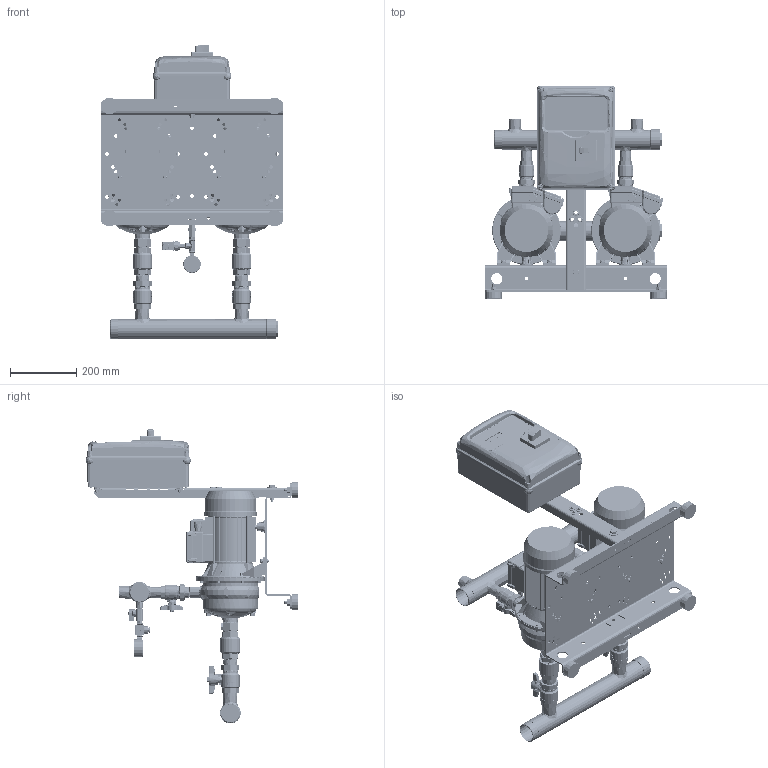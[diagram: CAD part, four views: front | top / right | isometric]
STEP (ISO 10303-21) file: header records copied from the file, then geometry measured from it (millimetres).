
FILE_DESCRIPTION((''),'2;1');
FILE_NAME('2GP_2CDX_120-15M_REV5_ASM','2025-02-04T17:19:50',('Utente'),('"Ebara Pumps Europe S.p.A"'),'CREO PARAMETRIC BY PTC INC, 2022124','CREO PARAMETRIC BY PTC INC, 2022124','');
FILE_SCHEMA(('AUTOMOTIVE_DESIGN { 1 0 10303 214 1 1 1 1 }'));
Products named in the file (39): 62508_275562936; CALOTTA_F_A304_DN50_369800820; VAL_INT_MF-B_OTN_CIM346_DN32; VAL_INT_M-F-3_OTN_CIM346_DN32_ASM; VAL-NR-FF-OTN-CIM30-DN32; VAL_NR_F-F_OTN_CIM30_DN32_ASM; NIPPLO-ALIM_OT_DN32_361910051; TAPPO_M_OT_1-2_380000878; 2CDXM_120_15; EP_2CDXM_120-15_ASM; VAL_INT_MF-B_OTN_CIM346_DN25; VAL_INT_M-F-3_OTN_CIM346_DN25_ASM; RONDEL-P_FE_ZN_UNI6592_M8; DADO_AUTOAGG_M8_ESAG; VITI_TE_ISO4017_M8_L20; 62510_275562942; TAPPO-SALVAFIL_D31; VAL_INT_MF_OTN_CIM012_DN8; NIPPLO_OTG_8_380000861; RACC-T_OTG_DN8_380000880; MAN_RAD_D50_10BAR_361600160; BASE_2GP_I300-B300_DNRV; MONTANTE_H600_271472877; PIEDINO_CIL_369650010; RONDEL-P_FE_ZN_UNI6592_M10; DADI_NORM_ISO4032_FE_ZN_M10; RONDEL-P_ZN_UNI6593_M10X30X2-5; VITI_TE_ISO4017_M10_L45; TRAVERSO_MONT_L200_271472882; RONDEL-P_FE_ZN_UNI6593_M6X18X2; RONDEL-P_FE_ZN_UNI6592_M6; VITI_TE_ISO4017_M6_L20; DADI_NORM_ISO4032_FE_ZN_M6; DADO_AUTOAGG_M10_ESAG; DNRV_2P_I300-B300_H600-Q220X300_ASM; COM_EP-PRO_2M_362334214; PG_PVC_D10-5_380000891; TRASD_16BAR_460500024; 2GP_2CDX_120-15M_REV5_ASM
Assembly tree (83 placements, depth 3):
  2GP_2CDX_120-15M_REV5_ASM
    62508_275562936
    CALOTTA_F_A304_DN50_369800820  x2
    VAL_INT_M-F-3_OTN_CIM346_DN32_ASM  x2
      VAL_INT_MF-B_OTN_CIM346_DN32
    VAL_NR_F-F_OTN_CIM30_DN32_ASM  x2
      VAL-NR-FF-OTN-CIM30-DN32
    NIPPLO-ALIM_OT_DN32_361910051  x2
    TAPPO_M_OT_1-2_380000878  x2
    EP_2CDXM_120-15_ASM  x2
      2CDXM_120_15
    VAL_INT_M-F-3_OTN_CIM346_DN25_ASM  x2
      VAL_INT_MF-B_OTN_CIM346_DN25
    RONDEL-P_FE_ZN_UNI6592_M8  x4
    DADO_AUTOAGG_M8_ESAG  x4
    VITI_TE_ISO4017_M8_L20  x4
    62510_275562942
    TAPPO-SALVAFIL_D31  x2
    VAL_INT_MF_OTN_CIM012_DN8
    NIPPLO_OTG_8_380000861
    RACC-T_OTG_DN8_380000880
    MAN_RAD_D50_10BAR_361600160
    DNRV_2P_I300-B300_H600-Q220X300_ASM
      BASE_2GP_I300-B300_DNRV
      MONTANTE_H600_271472877
      PIEDINO_CIL_369650010  x4
      RONDEL-P_FE_ZN_UNI6592_M10  x4
      DADI_NORM_ISO4032_FE_ZN_M10  x4
      RONDEL-P_ZN_UNI6593_M10X30X2-5
      VITI_TE_ISO4017_M10_L45
      TRAVERSO_MONT_L200_271472882  x2
      RONDEL-P_FE_ZN_UNI6593_M6X18X2  x8
      RONDEL-P_FE_ZN_UNI6592_M6  x4
      VITI_TE_ISO4017_M6_L20  x4
      DADI_NORM_ISO4032_FE_ZN_M6  x4
      DADO_AUTOAGG_M10_ESAG
    COM_EP-PRO_2M_362334214
    PG_PVC_D10-5_380000891  x3
    TRASD_16BAR_460500024
Bounding box: 550 x 644.45 x 893.45 mm (x, y, z)
Volume: 6083905.7 mm3; surface area: 3654101 mm2
Topology: 1351 solids, 1488 shells, 21600 faces, 54729 edges, 36302 vertices
Faces by surface type: plane 14132, cylinder 3481, cone 1332, bspline 953, extrusion 943, torus 666, sphere 91, revolution 2
Entity records: 956535 total; most frequent: CARTESIAN_POINT 299478, ORIENTED_EDGE 80673, DIRECTION 75438, PRESENTATION_STYLE_ASSIGNMENT 52438, STYLED_ITEM 42837, EDGE_CURVE 41324, CURVE_STYLE 39350, VECTOR 30293
